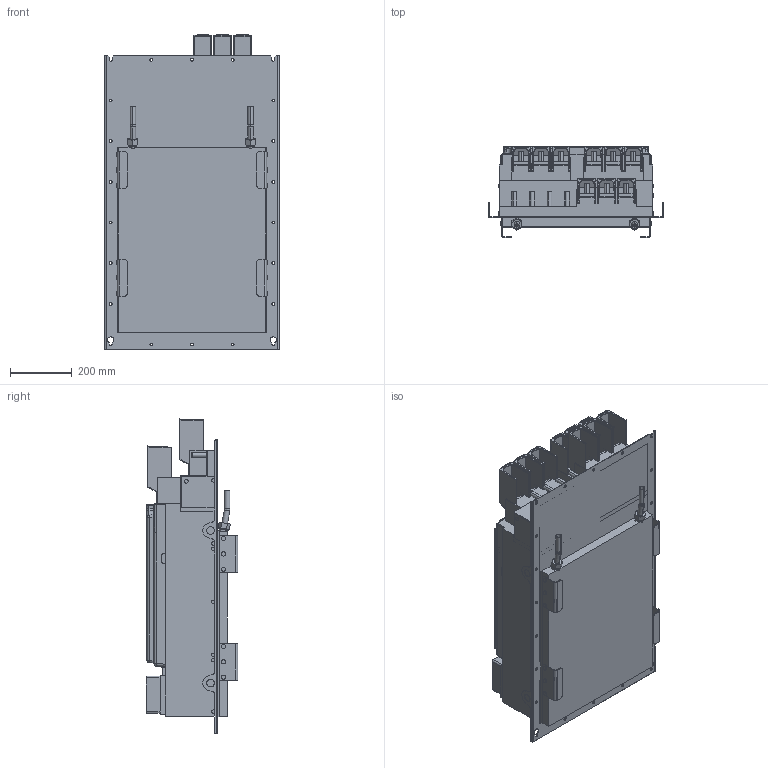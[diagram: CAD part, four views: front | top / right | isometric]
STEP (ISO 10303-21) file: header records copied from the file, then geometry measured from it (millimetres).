
FILE_DESCRIPTION (( 'STEP AP214' ), '1' );
FILE_NAME ('F6-9-TK5-A010.STEP', '2023-11-27T10:18:03', ( '' ), ( '' ), 'SwSTEP 2.0', 'SolidWorks 2022', '' );
FILE_SCHEMA (( 'AUTOMOTIVE_DESIGN' ));
Length unit declared in the file: millimetre
Products named in the file (12): Kundenmodell^10054881_000; Kundenmodell^10068280_000; 10064843_000_Kundenmodell ; Kundenmodell^10044643_000; 10044643_000_Kundenmodell; 10054881_000_Deckel (Kundenmodell); Kundenmodell^10059764_000; 10059764_000_Blindabdeckung (Kundenmodell); 10049764_000_Kundenmodell; F6-9-TK5-A010; 10068280_000_Kundenmodell; Kundenmodell^10049764_000
Assembly tree (11 placements, depth 4):
  F6-9-TK5-A010
    10064843_000_Kundenmodell 
      10068280_000_Kundenmodell
        Kundenmodell^10068280_000
    10049764_000_Kundenmodell
      Kundenmodell^10049764_000
    10044643_000_Kundenmodell
      10059764_000_Blindabdeckung (Kundenmodell)
        Kundenmodell^10059764_000
      Kundenmodell^10044643_000
    10054881_000_Deckel (Kundenmodell)
      Kundenmodell^10054881_000
Bounding box: 566 x 296.5 x 1024.88 mm (x, y, z)
Volume: 93814640.1 mm3; surface area: 4202346.5 mm2
Topology: 5 solids, 7 shells, 2848 faces, 7336 edges, 4576 vertices
Faces by surface type: plane 1293, cylinder 942, bspline 266, cone 180, sphere 92, torus 75
Entity records: 94801 total; most frequent: CARTESIAN_POINT 27108, ORIENTED_EDGE 14504, DIRECTION 13450, EDGE_CURVE 7252, AXIS2_PLACEMENT_3D 4583, VERTEX_POINT 4576, LINE 4284, VECTOR 4284
